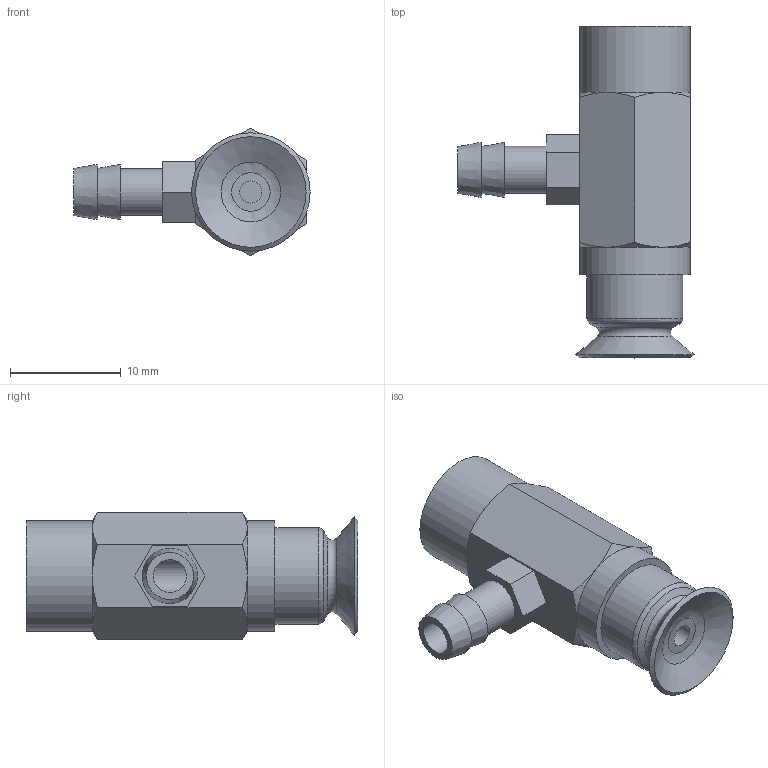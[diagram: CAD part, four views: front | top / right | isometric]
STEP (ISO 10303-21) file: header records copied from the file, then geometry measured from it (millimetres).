
FILE_DESCRIPTION(('STEP AP203'),'1');
FILE_NAME('.stp','2025-04-07T02:12:10',(' '),(' '),'Spatial InterOp 3D',' ',' ');
FILE_SCHEMA(('CONFIG_CONTROL_DESIGN'));
Length unit declared in the file: millimetre
Products named in the file (3): BBPFYK-10A-※; PFYK-10A; BPFG-10A-※
Assembly tree (2 placements, depth 2):
  BBPFYK-10A-※
    PFYK-10A
    BPFG-10A-※
Bounding box: 21.36 x 30 x 11.55 mm (x, y, z)
Volume: 2139.9 mm3; surface area: 2050.9 mm2
Topology: 2 solids, 2 shells, 73 faces, 153 edges, 94 vertices
Faces by surface type: plane 29, cone 21, cylinder 14, torus 8, bspline 1
Full cylindrical faces by diameter (mm): 2 x1, 3 x2, 3.242 x1, 4 x2, 4.26 x1, 5 x1, 6 x2, 8.7 x1, 10 x2
Entity records: 2065 total; most frequent: CARTESIAN_POINT 567, DIRECTION 288, ORIENTED_EDGE 220, AXIS2_PLACEMENT_3D 131, EDGE_LOOP 117, EDGE_CURVE 110, FACE_OUTER_BOUND 94, VERTEX_POINT 84
